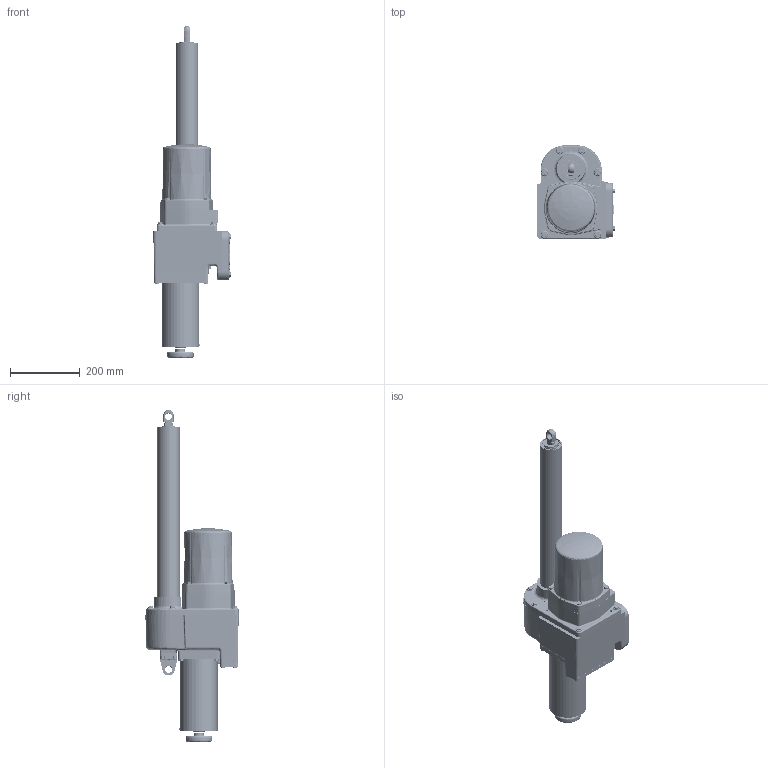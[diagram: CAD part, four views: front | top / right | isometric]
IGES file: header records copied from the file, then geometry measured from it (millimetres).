
Start section: SolidWorks IGES file using analytic representation for surfaces
Global section: file name: N:\Engineering\Product Support\Outline Dimension Models\42-1xx\IGES+STEP\18-4217-01_18_solid.IGS; native system: SolidWorks 2009; preprocessor: SolidWorks 2009; author: jmack; date: 110708.090105; units: inch
Bounding box: 222.58 x 268.45 x 954.3 mm (x, y, z)
Surface area: 1584722.1 mm2 (no closed solid volume)
Topology: 0 solids, 0 shells, 4052 faces, 50835 edges, 50511 vertices
Faces by surface type: revolution 2239, bspline 1813
